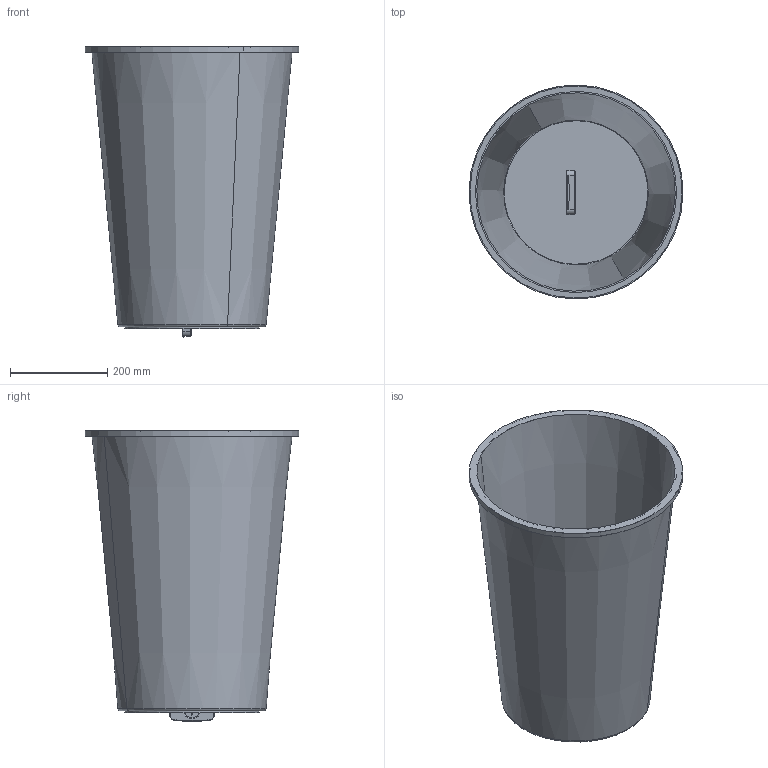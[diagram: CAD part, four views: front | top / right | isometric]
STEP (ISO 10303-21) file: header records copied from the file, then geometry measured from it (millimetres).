
FILE_DESCRIPTION(('CATIA V5 STEP Exchange'),'2;1');
FILE_NAME('D:\MENA 3D\BISMARK\BASE_PT2.stp','2024-11-25T07:12:06+00:00',('none'),('none'),'CATIA Version 5 Release 21 GA (IN-10)','CATIA V5 STEP AP203','none');
FILE_SCHEMA(('CONFIG_CONTROL_DESIGN'));
Length unit declared in the file: millimetre
Products named in the file (1): BASE_PT2
Bounding box: 439.88 x 439.88 x 597.5 mm (x, y, z)
Volume: 2337528.8 mm3; surface area: 1510965.3 mm2
Topology: 1 solids, 1 shells, 81 faces, 208 edges, 132 vertices
Faces by surface type: plane 39, cylinder 14, cone 14, extrusion 10, torus 4
Entity records: 2533 total; most frequent: CARTESIAN_POINT 659, ORIENTED_EDGE 416, DIRECTION 288, EDGE_CURVE 208, VERTEX_POINT 132, VECTOR 130, LINE 120, AXIS2_PLACEMENT_3D 107
